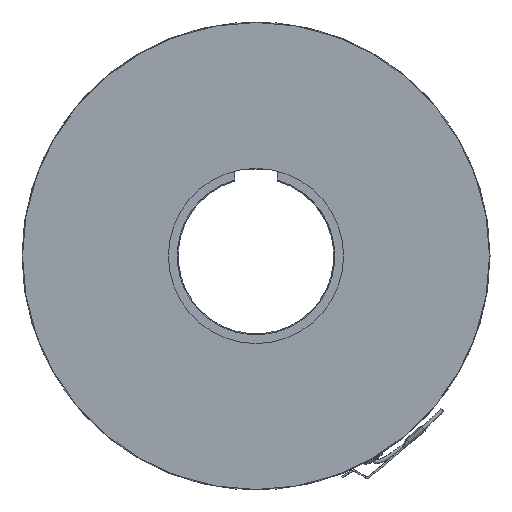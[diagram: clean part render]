
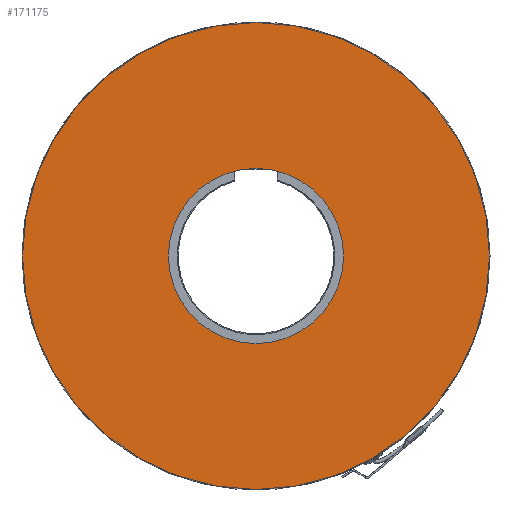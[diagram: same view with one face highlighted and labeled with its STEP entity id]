
A CAD part, left-side view. The second image highlights one B-rep face of the part: STEP entity #171175.
In plain terms, the highlighted planar face has unit normal (-1, 0, 0).
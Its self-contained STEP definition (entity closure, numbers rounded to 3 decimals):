
#171044=CARTESIAN_POINT('',(-28.304,0.,120.));
#171045=VERTEX_POINT('',#171044);
#171046=CARTESIAN_POINT('',(-28.304,0.,0.));
#171047=DIRECTION('',(1.0,0.0,0.0));
#171048=DIRECTION('',(0.0,0.0,1.0));
#171049=AXIS2_PLACEMENT_3D('',#171046,#171047,#171048);
#171050=CIRCLE('',#171049,120.);
#171051=EDGE_CURVE('',#171045,#171045,#171050,.T.);
#171149=CARTESIAN_POINT('',(-28.304,0.,45.));
#171150=VERTEX_POINT('',#171149);
#171151=CARTESIAN_POINT('',(-28.304,0.,0.));
#171152=DIRECTION('',(1.0,0.0,0.0));
#171153=DIRECTION('',(0.0,0.0,1.0));
#171154=AXIS2_PLACEMENT_3D('',#171151,#171152,#171153);
#171155=CIRCLE('',#171154,45.);
#171156=EDGE_CURVE('',#171150,#171150,#171155,.T.);
#171164=CARTESIAN_POINT('',(-28.304,0.,82.5));
#171165=DIRECTION('',(-1.0,0.0,0.0));
#171166=DIRECTION('',(0.0,-1.0,0.0));
#171167=AXIS2_PLACEMENT_3D('',#171164,#171165,#171166);
#171168=PLANE('',#171167);
#171169=ORIENTED_EDGE('',*,*,#171051,.F.);
#171170=EDGE_LOOP('',(#171169));
#171171=FACE_OUTER_BOUND('',#171170,.T.);
#171172=ORIENTED_EDGE('',*,*,#171156,.T.);
#171173=EDGE_LOOP('',(#171172));
#171174=FACE_BOUND('',#171173,.T.);
#171175=ADVANCED_FACE('',(#171171,#171174),#171168,.T.);
